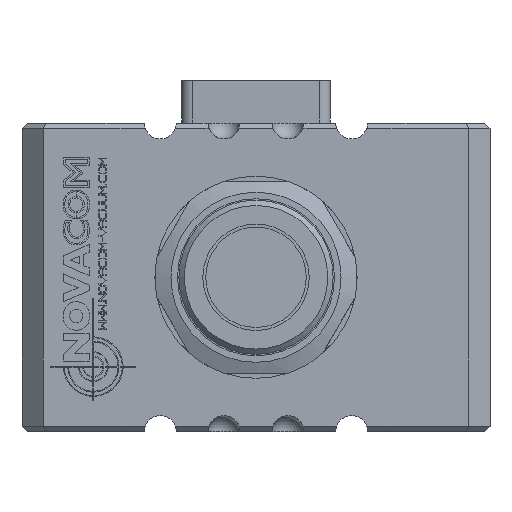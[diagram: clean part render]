
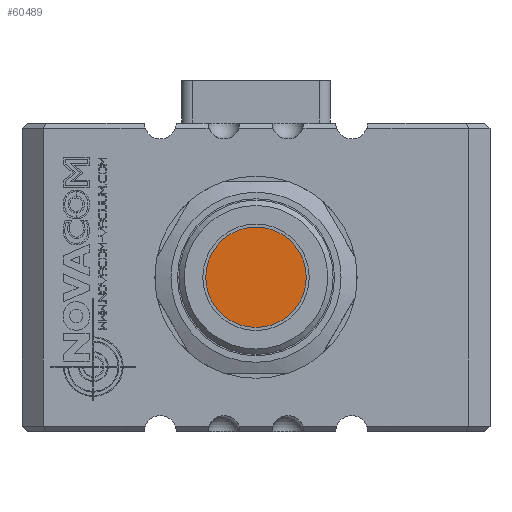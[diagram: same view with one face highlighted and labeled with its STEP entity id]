
A CAD part, left-side view. The second image highlights one B-rep face of the part: STEP entity #60489.
In plain terms, the highlighted planar face has unit normal (-1, 0, 0).
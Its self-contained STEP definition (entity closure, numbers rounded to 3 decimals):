
#1524 = PLANE ( 'NONE',  #72173 ) ;
#8155 = CARTESIAN_POINT ( 'NONE',  ( -39.5, 0., 0. ) ) ;
#12557 = CARTESIAN_POINT ( 'NONE',  ( -39.5, 4.72, 0. ) ) ;
#26861 = ORIENTED_EDGE ( 'NONE', *, *, #96909, .F. ) ;
#42734 = DIRECTION ( 'NONE',  ( 0., 1., 0. ) ) ;
#55810 = EDGE_LOOP ( 'NONE', ( #26861 ) ) ;
#58964 = DIRECTION ( 'NONE',  ( 1., 0., 0. ) ) ;
#60489 = ADVANCED_FACE ( 'NONE', ( #78020 ), #1524, .F. ) ;
#64748 = CIRCLE ( 'NONE', #102122, 4.72 ) ;
#72173 = AXIS2_PLACEMENT_3D ( 'NONE', #107557, #72927, #106990 ) ;
#72927 = DIRECTION ( 'NONE',  ( 1., 0., 0. ) ) ;
#78020 = FACE_OUTER_BOUND ( 'NONE', #55810, .T. ) ;
#81227 = VERTEX_POINT ( 'NONE', #12557 ) ;
#96909 = EDGE_CURVE ( 'NONE', #81227, #81227, #64748, .T. ) ;
#102122 = AXIS2_PLACEMENT_3D ( 'NONE', #8155, #58964, #42734 ) ;
#106990 = DIRECTION ( 'NONE',  ( 0., 1., 0. ) ) ;
#107557 = CARTESIAN_POINT ( 'NONE',  ( -39.5, 22., 14.5 ) ) ;
